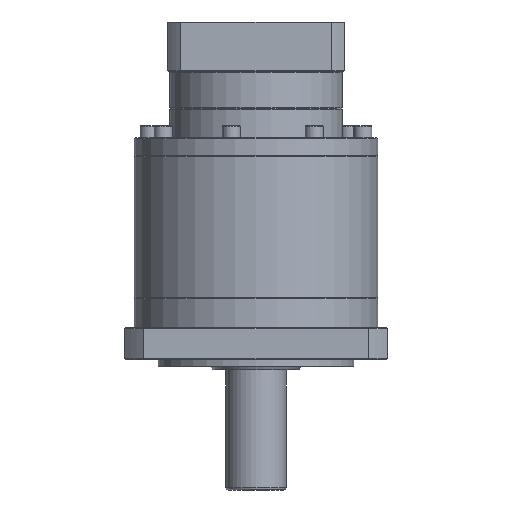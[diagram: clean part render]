
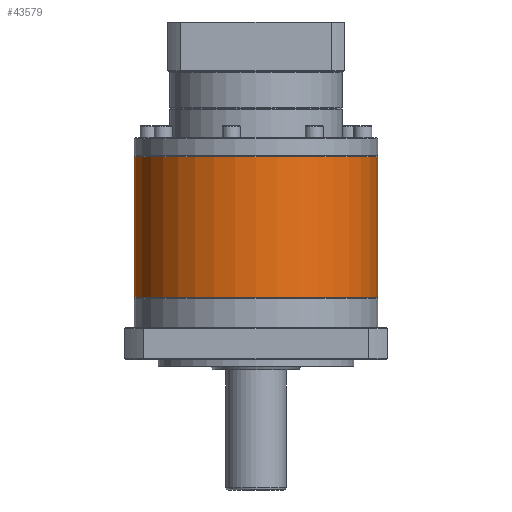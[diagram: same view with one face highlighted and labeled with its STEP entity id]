
A CAD part, front view. The second image highlights one B-rep face of the part: STEP entity #43579.
In plain terms, the highlighted cylindrical face has radius 81 mm (diameter 162 mm), a partial arc.
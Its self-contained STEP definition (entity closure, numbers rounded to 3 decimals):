
#953 = CARTESIAN_POINT ( 'NONE',  ( -119.591, 123.385, -109.903 ) ) ;
#5512 = VERTEX_POINT ( 'NONE', #27370 ) ;
#11247 = ORIENTED_EDGE ( 'NONE', *, *, #87239, .T. ) ;
#14273 = DIRECTION ( 'NONE',  ( 0., 0., -1. ) ) ;
#20928 = EDGE_LOOP ( 'NONE', ( #59885, #11247, #140787, #64021 ) ) ;
#21599 = DIRECTION ( 'NONE',  ( 0., 0., -1. ) ) ;
#27201 = CARTESIAN_POINT ( 'NONE',  ( -119.591, 123.385, -110.403 ) ) ;
#27370 = CARTESIAN_POINT ( 'NONE',  ( -200.591, 123.385, -110.403 ) ) ;
#28642 = DIRECTION ( 'NONE',  ( -1., 0., 0. ) ) ;
#31629 = CARTESIAN_POINT ( 'NONE',  ( -200.591, 123.385, -109.903 ) ) ;
#33388 = DIRECTION ( 'NONE',  ( -1., 0., 0. ) ) ;
#39233 = DIRECTION ( 'NONE',  ( 0., 0., -1. ) ) ;
#39768 = VERTEX_POINT ( 'NONE', #69034 ) ;
#42457 = EDGE_CURVE ( 'NONE', #77760, #46198, #102772, .T. ) ;
#43579 = ADVANCED_FACE ( 'NONE', ( #60745 ), #74412, .T. ) ;
#46198 = VERTEX_POINT ( 'NONE', #112316 ) ;
#47947 = AXIS2_PLACEMENT_3D ( 'NONE', #131750, #56058, #33388 ) ;
#50903 = EDGE_CURVE ( 'NONE', #39768, #46198, #84370, .T. ) ;
#54783 = DIRECTION ( 'NONE',  ( -1., 0., 0. ) ) ;
#55598 = LINE ( 'NONE', #31629, #66137 ) ;
#56058 = DIRECTION ( 'NONE',  ( 0., 0., 1. ) ) ;
#56155 = CIRCLE ( 'NONE', #113015, 81. ) ;
#59885 = ORIENTED_EDGE ( 'NONE', *, *, #50903, .F. ) ;
#60745 = FACE_OUTER_BOUND ( 'NONE', #20928, .T. ) ;
#64021 = ORIENTED_EDGE ( 'NONE', *, *, #42457, .T. ) ;
#64791 = AXIS2_PLACEMENT_3D ( 'NONE', #953, #21599, #54783 ) ;
#66137 = VECTOR ( 'NONE', #141102, 1000. ) ;
#69034 = CARTESIAN_POINT ( 'NONE',  ( -38.591, 123.385, -110.403 ) ) ;
#69149 = CARTESIAN_POINT ( 'NONE',  ( -38.591, 123.385, -109.903 ) ) ;
#74412 = CYLINDRICAL_SURFACE ( 'NONE', #64791, 81. ) ;
#77760 = VERTEX_POINT ( 'NONE', #131095 ) ;
#84370 = LINE ( 'NONE', #69149, #91352 ) ;
#87239 = EDGE_CURVE ( 'NONE', #39768, #5512, #56155, .T. ) ;
#91352 = VECTOR ( 'NONE', #14273, 1000. ) ;
#102772 = CIRCLE ( 'NONE', #47947, 81. ) ;
#112316 = CARTESIAN_POINT ( 'NONE',  ( -38.591, 123.385, -203.903 ) ) ;
#113015 = AXIS2_PLACEMENT_3D ( 'NONE', #27201, #39233, #28642 ) ;
#131095 = CARTESIAN_POINT ( 'NONE',  ( -200.591, 123.385, -203.903 ) ) ;
#131750 = CARTESIAN_POINT ( 'NONE',  ( -119.591, 123.385, -203.903 ) ) ;
#140787 = ORIENTED_EDGE ( 'NONE', *, *, #142757, .T. ) ;
#141102 = DIRECTION ( 'NONE',  ( 0., 0., -1. ) ) ;
#142757 = EDGE_CURVE ( 'NONE', #5512, #77760, #55598, .T. ) ;
